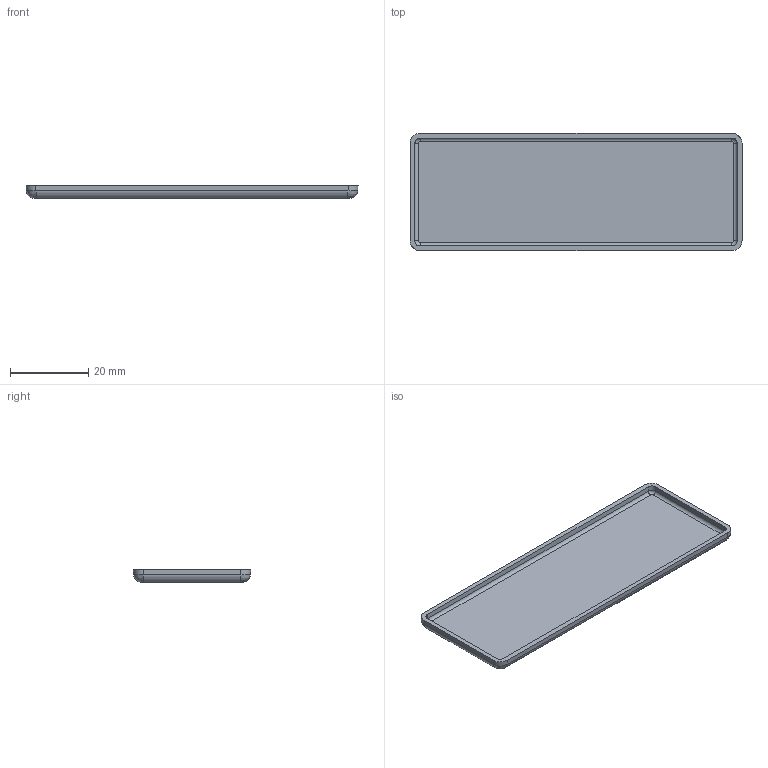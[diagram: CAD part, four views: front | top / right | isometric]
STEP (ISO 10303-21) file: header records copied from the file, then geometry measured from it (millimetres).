
FILE_DESCRIPTION (( 'STEP AP203' ), '1' );
FILE_NAME ('35124210_Abdeckkappe 6 30x60, schwarz.step', '2023-01-11T06:52:06', ( '' ), ( '' ), 'SwSTEP 2.0', 'SolidWorks 2021', '' );
FILE_SCHEMA (( 'CONFIG_CONTROL_DESIGN' ));
Length unit declared in the file: millimetre
Products named in the file (1): 35124210_Abdeckkappe 6 30x60, schwarz
Bounding box: 84.72 x 29.95 x 3.22 mm (x, y, z)
Volume: 3188.9 mm3; surface area: 5954.4 mm2
Topology: 1 solids, 1 shells, 35 faces, 80 edges, 48 vertices
Faces by surface type: cylinder 16, plane 11, bspline 8
Entity records: 1127 total; most frequent: CARTESIAN_POINT 348, ORIENTED_EDGE 160, DIRECTION 128, EDGE_CURVE 80, VERTEX_POINT 48, AXIS2_PLACEMENT_3D 44, VECTOR 40, LINE 40
